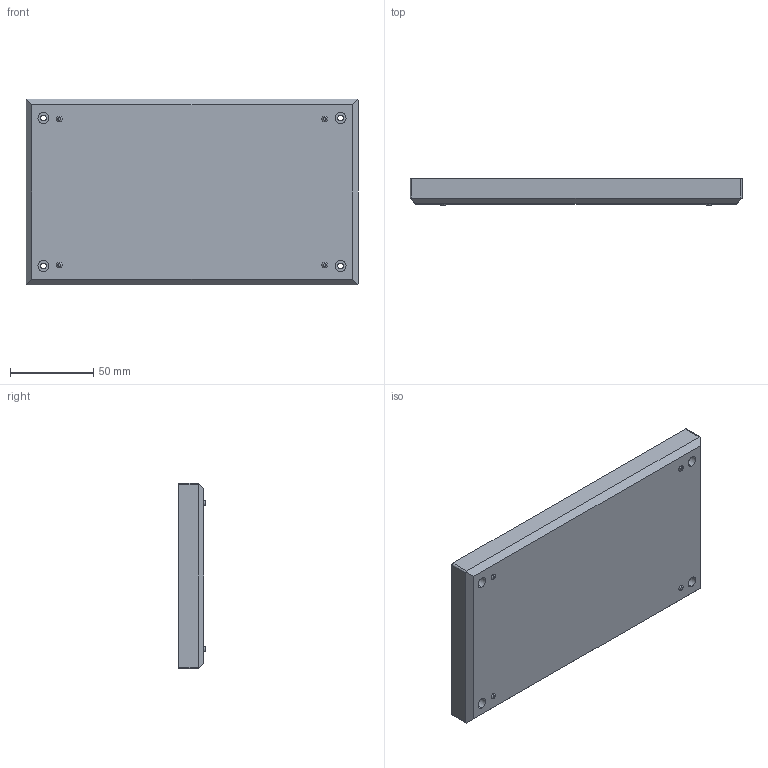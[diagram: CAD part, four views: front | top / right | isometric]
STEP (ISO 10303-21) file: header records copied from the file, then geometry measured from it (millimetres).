
FILE_DESCRIPTION (( 'STEP AP214' ), '1' );
FILE_NAME ('Cuerpo PP37.STEP', '2016-10-09T09:42:33', ( 'aaa' ), ( '' ), 'SwSTEP 2.0', 'SolidWorks 2013', '' );
FILE_SCHEMA (( 'AUTOMOTIVE_DESIGN' ));
Length unit declared in the file: millimetre
Products named in the file (1): Cuerpo PP37
Bounding box: 200 x 15.95 x 112 mm (x, y, z)
Volume: 105543.7 mm3; surface area: 64971.5 mm2
Topology: 1 solids, 1 shells, 131 faces, 296 edges, 196 vertices
Faces by surface type: cylinder 64, plane 59, torus 8
Entity records: 3780 total; most frequent: DIRECTION 700, CARTESIAN_POINT 660, ORIENTED_EDGE 592, EDGE_CURVE 296, AXIS2_PLACEMENT_3D 284, VERTEX_POINT 196, EDGE_LOOP 168, CIRCLE 152
